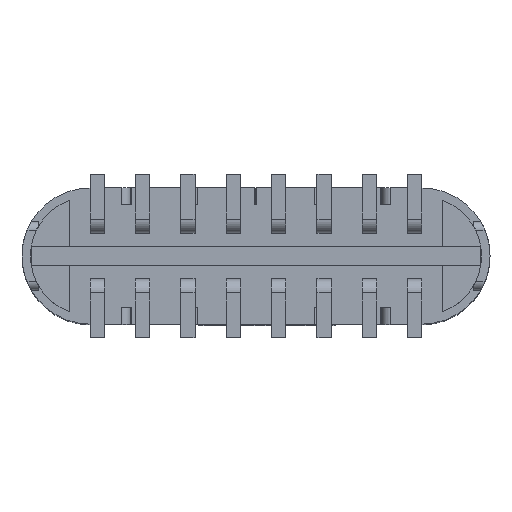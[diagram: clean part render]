
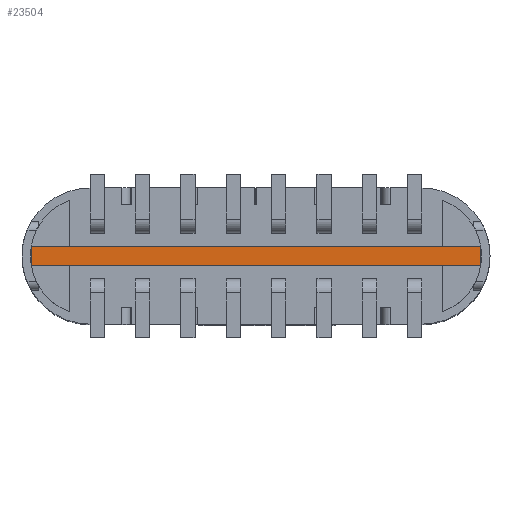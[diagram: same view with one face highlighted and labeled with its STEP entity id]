
A CAD part, top view. The second image highlights one B-rep face of the part: STEP entity #23504.
In plain terms, the highlighted planar face has unit normal (0, 0, 1).
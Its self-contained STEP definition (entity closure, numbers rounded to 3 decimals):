
#533=DIRECTION('',(1.,0.,0.));
#534=VECTOR('',#533,7.921);
#535=CARTESIAN_POINT('',(-3.96,0.175,7.62));
#536=LINE('',#535,#534);
#537=CARTESIAN_POINT('',(2.925,0.,7.62));
#538=DIRECTION('',(0.,0.,-1.));
#539=DIRECTION('',(0.986,0.167,0.));
#540=AXIS2_PLACEMENT_3D('',#537,#538,#539);
#542=CARTESIAN_POINT('',(2.925,0.,7.62));
#543=DIRECTION('',(0.,0.,-1.));
#544=DIRECTION('',(1.,0.,0.));
#545=AXIS2_PLACEMENT_3D('',#542,#543,#544);
#547=DIRECTION('',(-1.,0.,0.));
#548=VECTOR('',#547,7.921);
#549=CARTESIAN_POINT('',(3.96,-0.175,7.62));
#550=LINE('',#549,#548);
#551=CARTESIAN_POINT('',(-2.925,0.,7.62));
#552=DIRECTION('',(0.,0.,-1.));
#553=DIRECTION('',(-0.986,-0.167,0.));
#554=AXIS2_PLACEMENT_3D('',#551,#552,#553);
#556=CARTESIAN_POINT('',(-2.925,0.,7.62));
#557=DIRECTION('',(0.,0.,-1.));
#558=DIRECTION('',(-1.,0.,0.));
#559=AXIS2_PLACEMENT_3D('',#556,#557,#558);
#17944=CARTESIAN_POINT('',(-3.96,0.175,7.62));
#17946=VERTEX_POINT('',#17944);
#19157=CARTESIAN_POINT('',(3.96,-0.175,7.62));
#19159=VERTEX_POINT('',#19157);
#19161=CARTESIAN_POINT('',(3.96,0.175,7.62));
#19163=VERTEX_POINT('',#19161);
#22285=CARTESIAN_POINT('',(-3.96,-0.175,7.62));
#22286=VERTEX_POINT('',#22285);
#22287=CARTESIAN_POINT('',(3.975,0.,7.62));
#22288=VERTEX_POINT('',#22287);
#22289=CARTESIAN_POINT('',(-3.975,0.,7.62));
#22290=VERTEX_POINT('',#22289);
#23489=CARTESIAN_POINT('',(0.,0.,7.62));
#23490=DIRECTION('',(0.,0.,1.));
#23491=DIRECTION('',(1.,0.,0.));
#23492=AXIS2_PLACEMENT_3D('',#23489,#23490,#23491);
#23493=PLANE('',#23492);
#23494=ORIENTED_EDGE('',*,*,#22880,.T.);
#23495=ORIENTED_EDGE('',*,*,#23450,.T.);
#23496=ORIENTED_EDGE('',*,*,#23448,.T.);
#23497=ORIENTED_EDGE('',*,*,#23437,.T.);
#23499=ORIENTED_EDGE('',*,*,#23498,.T.);
#23501=ORIENTED_EDGE('',*,*,#23500,.T.);
#23502=EDGE_LOOP('',(#23494,#23495,#23496,#23497,#23499,#23501));
#23503=FACE_OUTER_BOUND('',#23502,.F.);
#541=CIRCLE('',#540,1.05);
#546=CIRCLE('',#545,1.05);
#555=CIRCLE('',#554,1.05);
#560=CIRCLE('',#559,1.05);
#22880=EDGE_CURVE('',#17946,#19163,#536,.T.);
#23437=EDGE_CURVE('',#19159,#22286,#550,.T.);
#23448=EDGE_CURVE('',#22288,#19159,#546,.T.);
#23450=EDGE_CURVE('',#19163,#22288,#541,.T.);
#23498=EDGE_CURVE('',#22286,#22290,#555,.T.);
#23500=EDGE_CURVE('',#22290,#17946,#560,.T.);
#23504=ADVANCED_FACE('',(#23503),#23493,.T.);
